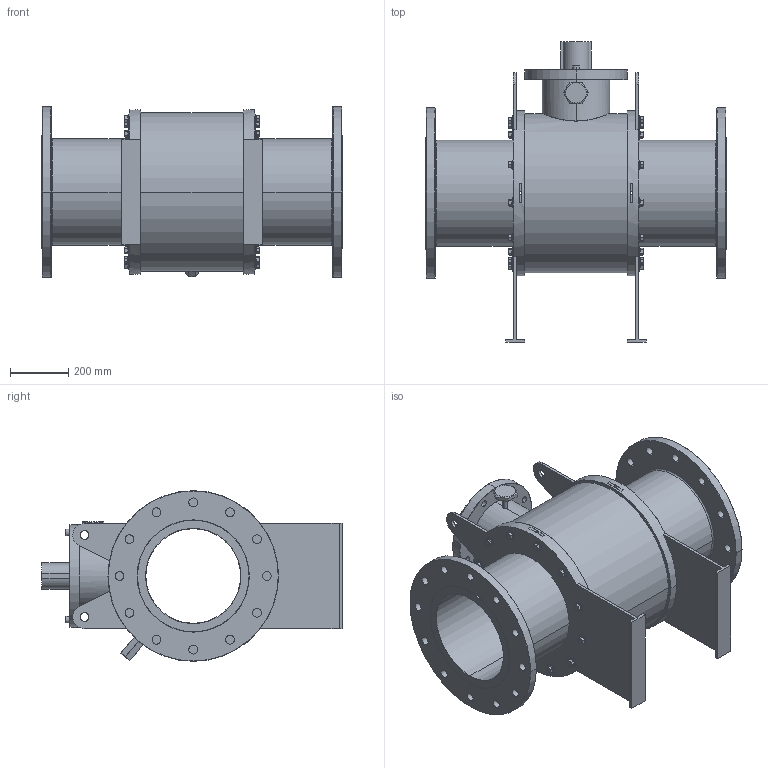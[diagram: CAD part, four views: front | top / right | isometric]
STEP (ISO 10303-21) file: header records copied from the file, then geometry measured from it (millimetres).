
FILE_DESCRIPTION (( 'STEP AP203' ), '1' );
FILE_NAME ('GB2_ANSI_900_14IN_TW.STEP', '2025-10-09T15:09:46', ( '' ), ( '' ), 'SwSTEP 2.0', 'SolidWorks 2025', '' );
FILE_SCHEMA (( 'CONFIG_CONTROL_DESIGN' ));
Length unit declared in the file: millimetre
Products named in the file (3): GB2_ANSI_2500_1500_ANSI_900_14IN; hex flange screw_am_B18.2.3.4M - Hex flange screw, M16 x 2.0 x 25 --25N; GB2_ANSI_900_14IN_TW
Assembly tree (25 placements, depth 2):
  GB2_ANSI_900_14IN_TW
    GB2_ANSI_2500_1500_ANSI_900_14IN
    hex flange screw_am_B18.2.3.4M - Hex flange screw, M16 x 2.0 x 25 --25N  x24
Bounding box: 1029 x 1028.5 x 584 mm (x, y, z)
Volume: 100341479.7 mm3; surface area: 4582246.5 mm2
Topology: 25 solids, 25 shells, 1041 faces, 2326 edges, 1392 vertices
Faces by surface type: plane 325, cone 270, cylinder 230, bspline 156, torus 54, sphere 6
Entity records: 13944 total; most frequent: CARTESIAN_POINT 3927, DIRECTION 2022, ORIENTED_EDGE 1792, EDGE_CURVE 896, AXIS2_PLACEMENT_3D 820, VERTEX_POINT 562, EDGE_LOOP 492, CIRCLE 436
